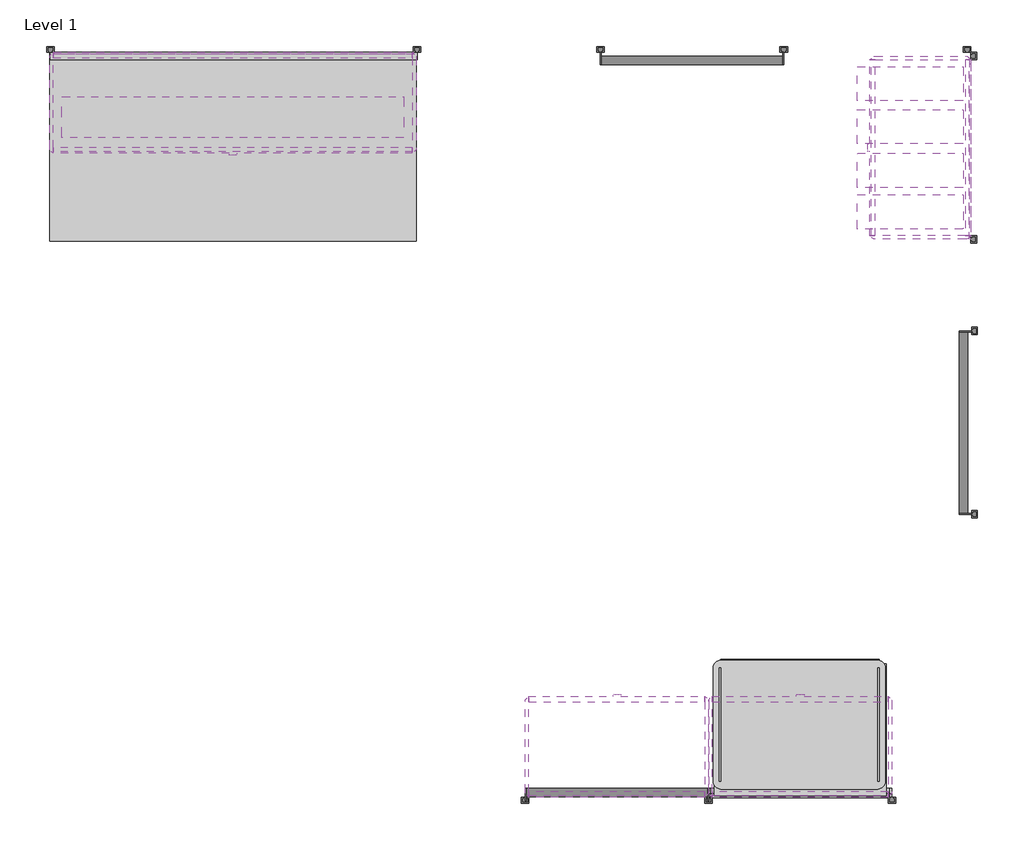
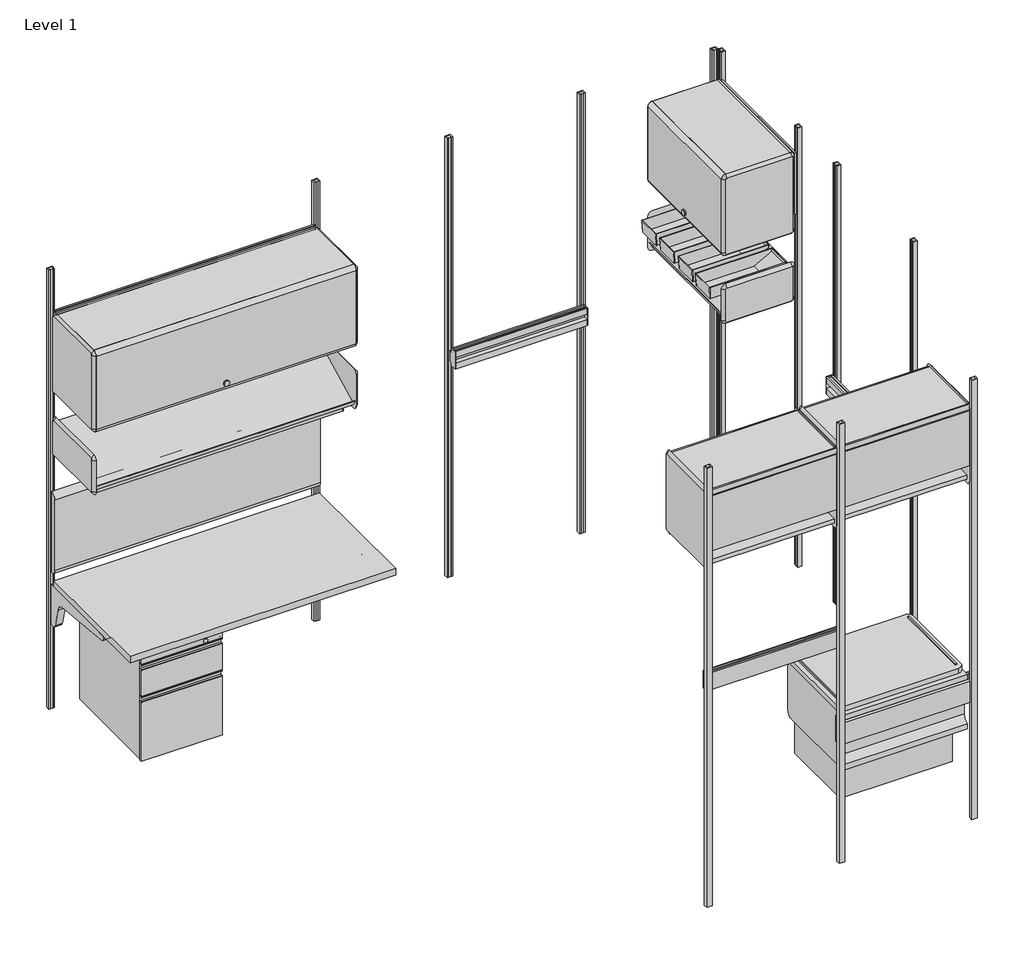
# One storey, incomplete: 42 furniture elements, 1 light fixture.
"""IFC4 building model written with IfcOpenShell, lengths in millimetres."""

from ifc_helpers import new_model, si_unit, origin, place, context, project, spatial, transform, mapped, element, save
from components import furniture_ebb16344, furniture_8d228605, furniture_4a924b53, furniture_e8b0ce59, furniture_fbea0b57, furniture_bd21e539, furniture_34c58b51, furniture_c2e30911, furniture_a9d36921, furniture_9d596dc5, furniture_793f8ccc, furniture_083a197f, furniture_da2f930f, furniture_887d2a2e, furniture_c8dc60de, furniture_b1e4f5cd, furniture_f8b3439c, furniture_78dc57b8, furniture_ea425779, a_3_e52fff41, c_9_eb0a6738, light_fixture_48w_for_action_office_09e55f13

model = new_model("IFC4")

# Units and contexts
model_context = context("Model", 3, world=origin())
ifc_project = project(units=[si_unit("LENGTHUNIT", "METRE", prefix="MILLI")], contexts=[model_context])

# Site, building, storey
site = spatial("IfcSite", under=ifc_project)
building = spatial("IfcBuilding", under=site)
storey = spatial("IfcBuildingStorey", under=building, Name="Level 1", Elevation=0.0)

# Furniture
placement = place(None, origin())
furniture_shape = furniture_ebb16344(model_context)
element("IfcFurniture", 1, ObjectType="HermanMiller_ActionOffice_B-StyleFlipperDoor : Paint 15-1/2H x 13D x 48W", at=placement, inside=storey, context=model_context, shape_type="MappedRepresentation", body=[
    mapped(furniture_shape, transform((606.92538, -200.025, 457.2), x_axis=(1.0, 0.0, 0.0), y_axis=(0.0, 1.0, 0.0), z_axis=(0.0, 0.0, 1.0))),
])
furniture_2_shape = furniture_8d228605(model_context)
element("IfcFurniture", 2, ObjectType="HermanMiller_CoStruc_B-StyleShelf : 15-1/2H x 13D x 48W", at=placement, inside=storey, context=model_context, shape_type="MappedRepresentation", body=[
    mapped(furniture_2_shape, transform((730.8673845, -200.025, 457.2), x_axis=(1.0, 0.0, 0.0), y_axis=(0.0, 1.0, 0.0), z_axis=(0.0, 0.0, 1.0))),
])
furniture_3_shape = furniture_4a924b53(model_context)
element("IfcFurniture", 3, ObjectType="HermanMiller_ActionOffice_A3220_B-StyleStorageDisplay : Display 13\"D x 48\"W", at=placement, inside=storey, context=model_context, shape_type="MappedRepresentation", body=[
    mapped(furniture_3_shape, transform((730.8673845, -200.025, -50.8), x_axis=(1.0, 0.0, 0.0), y_axis=(0.0, 1.0, 0.0), z_axis=(0.0, 0.0, 1.0))),
])
furniture_4_shape = furniture_e8b0ce59(model_context)
element("IfcFurniture", 4, ObjectType="HermanMiller_CoStruc_CO231_Subcontainer : 2 1/4\"H x 13 7/8\"D x 4 1/2\"W", at=placement, inside=storey, context=model_context, shape_type="MappedRepresentation", body=[
    mapped(furniture_4_shape, transform((2858.4398, -549.9608, 0.0), x_axis=(0.0, 1.0, 0.0), y_axis=(-1.0, 0.0, 0.0), z_axis=(0.0, 0.0, 1.0))),
])
element("IfcFurniture", 5, ObjectType="HermanMiller_CoStruc_CO231_Subcontainer : 2 1/4\"H x 13 7/8\"D x 4 1/2\"W", at=placement, inside=storey, context=model_context, shape_type="MappedRepresentation", body=[
    mapped(furniture_4_shape, transform((2858.4398, -412.60268, 0.0), x_axis=(0.0, 1.0, 0.0), y_axis=(-1.0, 0.0, 0.0), z_axis=(0.0, 0.0, 1.0))),
])
element("IfcFurniture", 6, ObjectType="HermanMiller_CoStruc_CO231_Subcontainer : 2 1/4\"H x 13 7/8\"D x 4 1/2\"W", at=placement, inside=storey, context=model_context, shape_type="MappedRepresentation", body=[
    mapped(furniture_4_shape, transform((2858.4398, -266.80922, 0.0), x_axis=(0.0, 1.0, 0.0), y_axis=(-1.0, 0.0, 0.0), z_axis=(0.0, 0.0, 1.0))),
])
element("IfcFurniture", 7, ObjectType="HermanMiller_CoStruc_CO231_Subcontainer : 2 1/4\"H x 13 7/8\"D x 4 1/2\"W", at=placement, inside=storey, context=model_context, shape_type="MappedRepresentation", body=[
    mapped(furniture_4_shape, transform((2858.4398, -123.82754, 0.0), x_axis=(0.0, 1.0, 0.0), y_axis=(-1.0, 0.0, 0.0), z_axis=(0.0, 0.0, 1.0))),
])
furniture_5_shape = furniture_fbea0b57(model_context)
element("IfcFurniture", 8, ObjectType="HermanMiller_ActionOffice_A3220_B-StyleStorageDisplay : Display 13\"D x 24\"W", at=placement, inside=storey, context=model_context, shape_type="MappedRepresentation", body=[
    mapped(furniture_5_shape, transform((2879.74024, -460.6012245, 0.0), x_axis=(0.0, -1.0, 0.0), y_axis=(1.0, 0.0, 0.0), z_axis=(0.0, 0.0, 1.0))),
])
furniture_6_shape = furniture_bd21e539(model_context)
element("IfcFurniture", 9, ObjectType="HermanMiller_CoStruc_CO201_CLid : 16\"D x 22\"W", at=placement, inside=storey, context=model_context, shape_type="MappedRepresentation", body=[
    mapped(furniture_6_shape, transform((2489.78928, -2255.7105, -25.4), x_axis=(-1.0, 0.0, 0.0), y_axis=(0.0, -1.0, 0.0), z_axis=(0.0, 0.0, 1.0))),
])
furniture_7_shape = furniture_34c58b51(model_context)
element("IfcFurniture", 10, ObjectType="HermanMiller_CoStruc_CO205_CFrame : 10\"H x 17\"D x 22\"W", at=placement, inside=storey, context=model_context, shape_type="MappedRepresentation", body=[
    mapped(furniture_7_shape, transform((2587.9019849, -2411.1058803, 0.0), x_axis=(-1.0, 0.0, 0.0), y_axis=(0.0, -1.0, 0.0), z_axis=(0.0, 0.0, 1.0))),
])
furniture_8_shape = furniture_c2e30911(model_context)
element("IfcFurniture", 11, ObjectType="HermanMiller_CoStruc_C3011_B-StyleShelf : 15-1/2\"H x 13\"D x 24\"W", at=placement, inside=storey, context=model_context, shape_type="MappedRepresentation", body=[
    mapped(furniture_8_shape, transform((2007.3062845, -2342.1975, 0.0), x_axis=(1.0, 0.0, 0.0), y_axis=(0.0, 1.0, 0.0), z_axis=(0.0, 0.0, 1.0))),
])
element("IfcFurniture", 12, ObjectType="HermanMiller_CoStruc_C3011_B-StyleShelf : 15-1/2\"H x 13\"D x 24\"W", at=placement, inside=storey, context=model_context, shape_type="MappedRepresentation", body=[
    mapped(furniture_8_shape, transform((2616.9062845, -2342.1975, 0.0), x_axis=(1.0, 0.0, 0.0), y_axis=(0.0, 1.0, 0.0), z_axis=(0.0, 0.0, 1.0))),
])
element("IfcFurniture", 13, ObjectType="HermanMiller_CoStruc_C3011_B-StyleShelf : 15-1/2\"H x 13\"D x 24\"W", at=placement, inside=storey, context=model_context, shape_type="MappedRepresentation", body=[
    mapped(furniture_8_shape, transform((2905.14024, -212.7172155, 0.0), x_axis=(0.0, 1.0, 0.0), y_axis=(-1.0, 0.0, 0.0), z_axis=(0.0, 0.0, 1.0))),
])
furniture_9_shape = furniture_a9d36921(model_context)
element("IfcFurniture", 14, ObjectType="HermanMiller_ActionOffice_A3313_B-StyleFlipperDoor : Paint 15-1/2\"H x 13\"D x 24\"W", at=placement, inside=storey, context=model_context, shape_type="MappedRepresentation", body=[
    mapped(furniture_9_shape, transform((1883.36428, -2316.7975, 0.0), x_axis=(-1.0, 0.0, 0.0), y_axis=(0.0, -1.0, 0.0), z_axis=(0.0, 0.0, 1.0))),
])
element("IfcFurniture", 15, ObjectType="HermanMiller_ActionOffice_A3313_B-StyleFlipperDoor : Paint 15-1/2\"H x 13\"D x 24\"W", at=placement, inside=storey, context=model_context, shape_type="MappedRepresentation", body=[
    mapped(furniture_9_shape, transform((2492.96428, -2316.7975, 0.0), x_axis=(-1.0, 0.0, 0.0), y_axis=(0.0, -1.0, 0.0), z_axis=(0.0, 0.0, 1.0))),
])
furniture_10_shape = furniture_9d596dc5(model_context)
element("IfcFurniture", 16, ObjectType="HermanMiller_ActionOffice_A3313_B-StyleFlipperDoor : Paint 15-1/2\"H x 13\"D x 24\"W", at=placement, inside=storey, context=model_context, shape_type="MappedRepresentation", body=[
    mapped(furniture_10_shape, transform((2879.74024, -336.65922, 0.0), x_axis=(0.0, -1.0, 0.0), y_axis=(1.0, 0.0, 0.0), z_axis=(0.0, 0.0, 1.0))),
])
furniture_11_shape = furniture_793f8ccc(model_context)
element("IfcFurniture", 17, ObjectType="HermanMiller_ActionOffice_A3410_B-StyleTackboard : 16\"H x 48\"W", at=placement, inside=storey, context=model_context, shape_type="MappedRepresentation", body=[
    mapped(furniture_11_shape, transform((609.6, -31.75, 0.0), x_axis=(1.0, 0.0, 0.0), y_axis=(0.0, 1.0, 0.0), z_axis=(0.0, 0.0, 1.0))),
])
furniture_12_shape = furniture_083a197f(model_context)
element("IfcFurniture", 18, ObjectType="HermanMiller_ActionOffice_A2310_Sq-EdgeRectangularWorkSurface : 24\"D x 48\"W", at=placement, inside=storey, context=model_context, shape_type="MappedRepresentation", body=[
    mapped(furniture_12_shape, transform((606.92538, -333.375, 0.0), x_axis=(1.0, 0.0, 0.0), y_axis=(0.0, 1.0, 0.0), z_axis=(0.0, 0.0, 1.0))),
])
furniture_13_shape = furniture_da2f930f(model_context)
element("IfcFurniture", 19, ObjectType="HermanMiller_TuStorage_LW130_W-PullSuspendedPedestal : 20D BF", at=placement, inside=storey, context=model_context, shape_type="MappedRepresentation", body=[
    mapped(furniture_13_shape, transform((236.5375, -398.4625, 0.0), x_axis=(1.0, 0.0, 0.0), y_axis=(0.0, 1.0, 0.0), z_axis=(0.0, 0.0, 1.0))),
])
furniture_14_shape = furniture_887d2a2e(model_context)
element("IfcFurniture", 20, ObjectType="HermanMiller_CoStruc_CO371_LockedDrawerWithLockableLid : B - 6H x 15D x 20W Lid Wlock", at=placement, inside=storey, context=model_context, shape_type="MappedRepresentation", body=[
    mapped(furniture_14_shape, transform((2486.8367799, -2233.40422, -76.2), x_axis=(-1.0, 0.0, 0.0), y_axis=(0.0, -1.0, 0.0), z_axis=(0.0, 0.0, 1.0))),
])
furniture_15_shape = furniture_c8dc60de(model_context)
element("IfcFurniture", 21, ObjectType="HermanMiller_CoStruc_C1610_AdapterRail : 24\"W", at=placement, inside=storey, context=model_context, shape_type="MappedRepresentation", body=[
    mapped(furniture_15_shape, transform((2492.96428, -2483.739, 0.0), x_axis=(-1.0, 0.0, 0.0), y_axis=(0.0, -1.0, 0.0), z_axis=(0.0, 0.0, 1.0))),
])
furniture_16_shape = furniture_b1e4f5cd(model_context)
element("IfcFurniture", 22, ObjectType="HermanMiller_CoStruc_C1172_EquipmentRailSystemsMounted : 24\"W", at=placement, inside=storey, context=model_context, shape_type="MappedRepresentation", body=[
    mapped(furniture_16_shape, transform((1883.36428, -2509.139, 0.0), x_axis=(-1.0, 0.0, 0.0), y_axis=(0.0, -1.0, 0.0), z_axis=(0.0, 0.0, 1.0))),
])
element("IfcFurniture", 23, ObjectType="HermanMiller_CoStruc_C1172_EquipmentRailSystemsMounted : 24\"W", at=placement, inside=storey, context=model_context, shape_type="MappedRepresentation", body=[
    mapped(furniture_16_shape, transform((3063.2273, -1251.05922, 0.0), x_axis=(0.0, -1.0, 0.0), y_axis=(1.0, 0.0, 0.0), z_axis=(0.0, 0.0, 1.0))),
])
element("IfcFurniture", 24, ObjectType="HermanMiller_CoStruc_C1172_EquipmentRailSystemsMounted : 24\"W", at=placement, inside=storey, context=model_context, shape_type="MappedRepresentation", body=[
    mapped(furniture_16_shape, transform((2133.6, -19.05, 0.0), x_axis=(1.0, 0.0, 0.0), y_axis=(0.0, 1.0, 0.0), z_axis=(0.0, 0.0, 1.0))),
])
furniture_17_shape = furniture_f8b3439c(model_context)
element("IfcFurniture", 25, ObjectType="HermanMiller_ActionOffice_A3390_B-StyleFlipperDoorBackPanel : 24\"W", at=placement, inside=storey, context=model_context, shape_type="MappedRepresentation", body=[
    mapped(furniture_17_shape, transform((1883.36428, -2491.4225, 0.0), x_axis=(1.0, 0.0, 0.0), y_axis=(0.0, 1.0, 0.0), z_axis=(0.0, 0.0, 1.0))),
])
element("IfcFurniture", 26, ObjectType="HermanMiller_ActionOffice_A3390_B-StyleFlipperDoorBackPanel : 24\"W", at=placement, inside=storey, context=model_context, shape_type="MappedRepresentation", body=[
    mapped(furniture_17_shape, transform((2492.96428, -2491.4225, 0.0), x_axis=(1.0, 0.0, 0.0), y_axis=(0.0, 1.0, 0.0), z_axis=(0.0, 0.0, 1.0))),
])
element("IfcFurniture", 27, ObjectType="HermanMiller_ActionOffice_A3390_B-StyleFlipperDoorBackPanel : 24\"W", at=placement, inside=storey, context=model_context, shape_type="MappedRepresentation", body=[
    mapped(furniture_17_shape, transform((3054.36524, -349.35922, 0.0), x_axis=(0.0, 1.0, 0.0), y_axis=(-1.0, 0.0, 0.0), z_axis=(0.0, 0.0, 1.0))),
])
furniture_18_shape = furniture_78dc57b8(model_context)
element("IfcFurniture", 28, ObjectType="HermanMiller_ActionOffice_A3390_B-StyleFlipperDoorBackPanel : 48\"W", at=placement, inside=storey, context=model_context, shape_type="MappedRepresentation", body=[
    mapped(furniture_18_shape, transform((609.6000004, -19.05, 0.0), x_axis=(1.0, 0.0, 0.0), y_axis=(0.0, 1.0, 0.0), z_axis=(0.0, 0.0, 1.0))),
])
furniture_19_shape = furniture_ea425779(model_context)
element("IfcFurniture", 29, ObjectType="HermanMiller_ActionOffice_AO213_WallStrip : 84\"H", at=placement, inside=storey, context=model_context, shape_type="MappedRepresentation", body=[
    mapped(furniture_19_shape, transform((3048.0, 0.0, 0.0), x_axis=(1.0, 0.0, 0.0), y_axis=(0.0, 1.0, 0.0), z_axis=(0.0, 0.0, 1.0))),
])
element("IfcFurniture", 30, ObjectType="HermanMiller_ActionOffice_AO213_WallStrip : 84\"H", at=placement, inside=storey, context=model_context, shape_type="MappedRepresentation", body=[
    mapped(furniture_19_shape, transform((1578.56428, -2516.8225, 0.0), x_axis=(-1.0, 0.0, 0.0), y_axis=(0.0, -1.0, 0.0), z_axis=(0.0, 0.0, 1.0))),
])
element("IfcFurniture", 31, ObjectType="HermanMiller_ActionOffice_AO213_WallStrip : 84\"H", at=placement, inside=storey, context=model_context, shape_type="MappedRepresentation", body=[
    mapped(furniture_19_shape, transform((2188.16428, -2516.8225, 0.0), x_axis=(-1.0, 0.0, 0.0), y_axis=(0.0, -1.0, 0.0), z_axis=(0.0, 0.0, 1.0))),
])
element("IfcFurniture", 32, ObjectType="HermanMiller_ActionOffice_AO213_WallStrip : 84\"H", at=placement, inside=storey, context=model_context, shape_type="MappedRepresentation", body=[
    mapped(furniture_19_shape, transform((2797.76428, -2516.8225, 0.0), x_axis=(-1.0, 0.0, 0.0), y_axis=(0.0, -1.0, 0.0), z_axis=(0.0, 0.0, 1.0))),
])
element("IfcFurniture", 33, ObjectType="HermanMiller_ActionOffice_AO213_WallStrip : 84\"H", at=placement, inside=storey, context=model_context, shape_type="MappedRepresentation", body=[
    mapped(furniture_19_shape, transform((3082.2773, -1555.85922, 0.0), x_axis=(0.0, -1.0, 0.0), y_axis=(1.0, 0.0, 0.0), z_axis=(0.0, 0.0, 1.0))),
])
element("IfcFurniture", 34, ObjectType="HermanMiller_ActionOffice_AO213_WallStrip : 84\"H", at=placement, inside=storey, context=model_context, shape_type="MappedRepresentation", body=[
    mapped(furniture_19_shape, transform((3082.2773, -946.25922, 0.0), x_axis=(0.0, -1.0, 0.0), y_axis=(1.0, 0.0, 0.0), z_axis=(0.0, 0.0, 1.0))),
])
element("IfcFurniture", 35, ObjectType="HermanMiller_ActionOffice_AO213_WallStrip : 84\"H", at=placement, inside=storey, context=model_context, shape_type="MappedRepresentation", body=[
    mapped(furniture_19_shape, transform((3079.76524, -641.45922, 0.0), x_axis=(0.0, -1.0, 0.0), y_axis=(1.0, 0.0, 0.0), z_axis=(0.0, 0.0, 1.0))),
])
element("IfcFurniture", 36, ObjectType="HermanMiller_ActionOffice_AO213_WallStrip : 84\"H", at=placement, inside=storey, context=model_context, shape_type="MappedRepresentation", body=[
    mapped(furniture_19_shape, transform((3079.76524, -31.85922, 0.0), x_axis=(0.0, -1.0, 0.0), y_axis=(1.0, 0.0, 0.0), z_axis=(0.0, 0.0, 1.0))),
])
element("IfcFurniture", 37, ObjectType="HermanMiller_ActionOffice_AO213_WallStrip : 84\"H", at=placement, inside=storey, context=model_context, shape_type="MappedRepresentation", body=[
    mapped(furniture_19_shape, transform((2438.4, 0.0, 0.0), x_axis=(1.0, 0.0, 0.0), y_axis=(0.0, 1.0, 0.0), z_axis=(0.0, 0.0, 1.0))),
])
element("IfcFurniture", 38, ObjectType="HermanMiller_ActionOffice_AO213_WallStrip : 84\"H", at=placement, inside=storey, context=model_context, shape_type="MappedRepresentation", body=[
    mapped(furniture_19_shape, transform((1828.8, 0.0, 0.0), x_axis=(1.0, 0.0, 0.0), y_axis=(0.0, 1.0, 0.0), z_axis=(0.0, 0.0, 1.0))),
])
element("IfcFurniture", 39, ObjectType="HermanMiller_ActionOffice_AO213_WallStrip : 84\"H", at=placement, inside=storey, context=model_context, shape_type="MappedRepresentation", body=[
    mapped(furniture_19_shape, transform((1219.2, 0.0, 0.0), x_axis=(1.0, 0.0, 0.0), y_axis=(0.0, 1.0, 0.0), z_axis=(0.0, 0.0, 1.0))),
])
element("IfcFurniture", 40, ObjectType="HermanMiller_ActionOffice_AO213_WallStrip : 84\"H", at=placement, inside=storey, context=model_context, shape_type="MappedRepresentation", body=[
    mapped(furniture_19_shape, transform((0.0, 0.0, 0.0), x_axis=(1.0, 0.0, 0.0), y_axis=(0.0, 1.0, 0.0), z_axis=(0.0, 0.0, 1.0))),
])
a_3_shape = a_3_e52fff41(model_context)
element("IfcFurniture", 41, ObjectType="HermanMiller_CoStruc_CO207_Drawer : A - 3", at=placement, inside=storey, context=model_context, shape_type="MappedRepresentation", body=[
    mapped(a_3_shape, transform((2493.0316283, -2233.41692, 0.0), x_axis=(-1.0, 0.0, 0.0), y_axis=(0.0, -1.0, 0.0), z_axis=(0.0, 0.0, 1.0))),
])
c_9_shape = c_9_eb0a6738(model_context)
element("IfcFurniture", 42, ObjectType="HermanMiller_CoStruc_CO207_Drawer : C - 9", at=placement, inside=storey, context=model_context, shape_type="MappedRepresentation", body=[
    mapped(c_9_shape, transform((2493.0316283, -2233.41692, 0.0), x_axis=(-1.0, 0.0, 0.0), y_axis=(0.0, -1.0, 0.0), z_axis=(0.0, 0.0, 1.0))),
])

# Light fixture
light_fixture_48w_for_action_office_shape = light_fixture_48w_for_action_office_09e55f13(model_context)
element("IfcLightFixture", 43, ObjectType="HermanMiller_SupplementalProducts_G6170_EUnderShelfLEDTaskLight : 48W for Action Office", at=placement, inside=storey, context=model_context, shape_type="MappedRepresentation", body=[
    mapped(light_fixture_48w_for_action_office_shape, transform((606.92538, -234.95, 127.0), x_axis=(1.0, 0.0, 0.0), y_axis=(0.0, 1.0, 0.0), z_axis=(0.0, 0.0, 1.0))),
])

save(model, "model.ifc")
